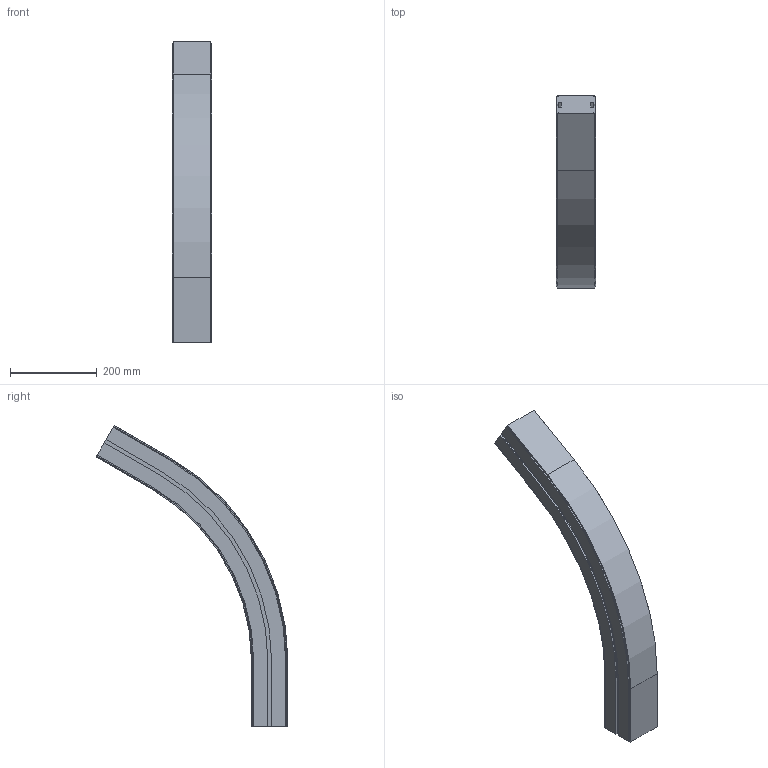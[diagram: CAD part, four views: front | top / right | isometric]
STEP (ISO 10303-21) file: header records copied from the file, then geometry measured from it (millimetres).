
FILE_DESCRIPTION (( 'STEP AP214' ), '1' );
FILE_NAME ('927764 CS090SL Verticale bochtsectie R500 60°.STEP', '2014-03-20T15:24:30', ( 'Beheerder' ), ( '' ), 'SwSTEP 2.0', 'SolidWorks 2012', '' );
FILE_SCHEMA (( 'AUTOMOTIVE_DESIGN' ));
Length unit declared in the file: millimetre
Products named in the file (1): 927764 CS090SL Verticale bochtsectie R500 60°
Bounding box: 90 x 442.9 x 694.39 mm (x, y, z)
Volume: 5892544.5 mm3; surface area: 388190 mm2
Topology: 1 solids, 1 shells, 98 faces, 272 edges, 176 vertices
Faces by surface type: plane 72, cylinder 18, cone 8
Entity records: 3126 total; most frequent: CARTESIAN_POINT 547, ORIENTED_EDGE 544, DIRECTION 514, EDGE_CURVE 272, LINE 228, VECTOR 228, VERTEX_POINT 176, AXIS2_PLACEMENT_3D 143
